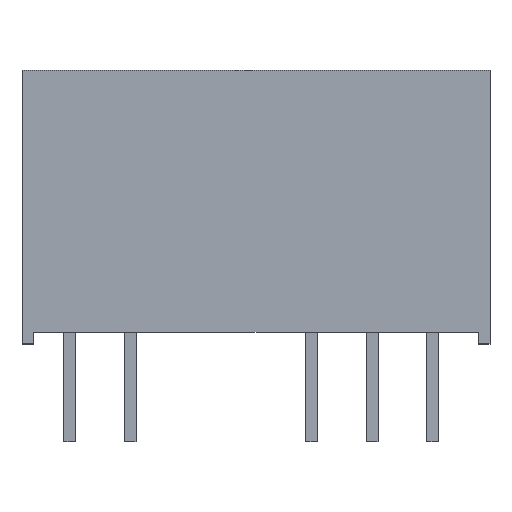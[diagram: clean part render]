
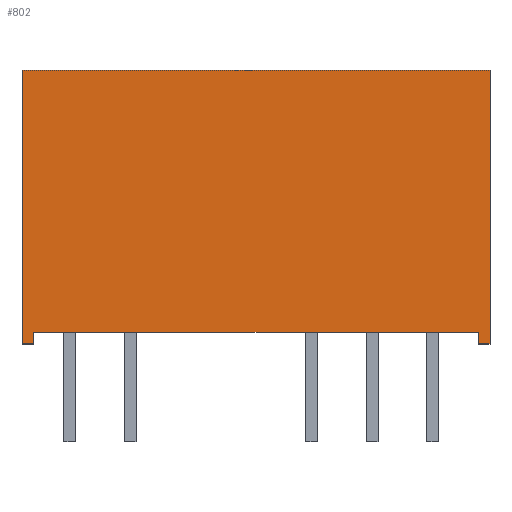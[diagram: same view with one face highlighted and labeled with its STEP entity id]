
A CAD part, top view. The second image highlights one B-rep face of the part: STEP entity #802.
In plain terms, the highlighted planar face has unit normal (0, 0, 1).
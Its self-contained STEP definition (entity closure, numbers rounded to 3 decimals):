
#40=FACE_OUTER_BOUND('',#90,.T.);
#90=EDGE_LOOP('',(#587,#588,#589,#590,#591,#592,#593,#594));
#138=LINE('',#1139,#246);
#150=LINE('',#1163,#258);
#152=LINE('',#1167,#260);
#154=LINE('',#1171,#262);
#156=LINE('',#1175,#264);
#158=LINE('',#1179,#266);
#160=LINE('',#1183,#268);
#162=LINE('',#1186,#270);
#246=VECTOR('',#924,10.);
#258=VECTOR('',#942,10.);
#260=VECTOR('',#946,10.);
#262=VECTOR('',#950,10.);
#264=VECTOR('',#954,10.);
#266=VECTOR('',#958,10.);
#268=VECTOR('',#962,10.);
#270=VECTOR('',#966,10.);
#351=VERTEX_POINT('',#1136);
#352=VERTEX_POINT('',#1138);
#361=VERTEX_POINT('',#1162);
#362=VERTEX_POINT('',#1166);
#363=VERTEX_POINT('',#1170);
#364=VERTEX_POINT('',#1174);
#365=VERTEX_POINT('',#1178);
#366=VERTEX_POINT('',#1182);
#426=EDGE_CURVE('',#352,#351,#138,.T.);
#438=EDGE_CURVE('',#361,#352,#150,.T.);
#440=EDGE_CURVE('',#362,#361,#152,.T.);
#442=EDGE_CURVE('',#363,#362,#154,.T.);
#444=EDGE_CURVE('',#364,#363,#156,.T.);
#446=EDGE_CURVE('',#365,#364,#158,.T.);
#448=EDGE_CURVE('',#366,#365,#160,.T.);
#450=EDGE_CURVE('',#351,#366,#162,.T.);
#587=ORIENTED_EDGE('',*,*,#426,.T.);
#588=ORIENTED_EDGE('',*,*,#450,.T.);
#589=ORIENTED_EDGE('',*,*,#448,.T.);
#590=ORIENTED_EDGE('',*,*,#446,.T.);
#591=ORIENTED_EDGE('',*,*,#444,.T.);
#592=ORIENTED_EDGE('',*,*,#442,.T.);
#593=ORIENTED_EDGE('',*,*,#440,.T.);
#594=ORIENTED_EDGE('',*,*,#438,.T.);
#752=PLANE('',#866);
#802=ADVANCED_FACE('',(#40),#752,.T.);
#866=AXIS2_PLACEMENT_3D('',#1187,#967,#968);
#924=DIRECTION('',(1.,0.,0.));
#942=DIRECTION('',(0.,1.,0.));
#946=DIRECTION('',(1.,0.,0.));
#950=DIRECTION('',(0.,-1.,0.));
#954=DIRECTION('',(-1.,0.,0.));
#958=DIRECTION('',(0.,1.,0.));
#962=DIRECTION('',(1.,0.,0.));
#966=DIRECTION('',(0.,-1.,0.));
#967=DIRECTION('center_axis',(0.,0.,1.));
#968=DIRECTION('ref_axis',(1.,0.,0.));
#1136=CARTESIAN_POINT('',(9.325,0.,3.525));
#1138=CARTESIAN_POINT('',(-9.325,0.,3.525));
#1139=CARTESIAN_POINT('',(0.,0.,3.525));
#1162=CARTESIAN_POINT('',(-9.325,-0.5,3.525));
#1163=CARTESIAN_POINT('',(-9.325,0.,3.525));
#1166=CARTESIAN_POINT('',(-9.825,-0.5,3.525));
#1167=CARTESIAN_POINT('',(-9.325,-0.5,3.525));
#1170=CARTESIAN_POINT('',(-9.825,11.,3.525));
#1171=CARTESIAN_POINT('',(-9.825,-0.5,3.525));
#1174=CARTESIAN_POINT('',(9.825,11.,3.525));
#1175=CARTESIAN_POINT('',(0.,11.,3.525));
#1178=CARTESIAN_POINT('',(9.825,-0.5,3.525));
#1179=CARTESIAN_POINT('',(9.825,11.,3.525));
#1182=CARTESIAN_POINT('',(9.325,-0.5,3.525));
#1183=CARTESIAN_POINT('',(9.825,-0.5,3.525));
#1186=CARTESIAN_POINT('',(9.325,-0.5,3.525));
#1187=CARTESIAN_POINT('Origin',(0.,5.31,
3.525));
